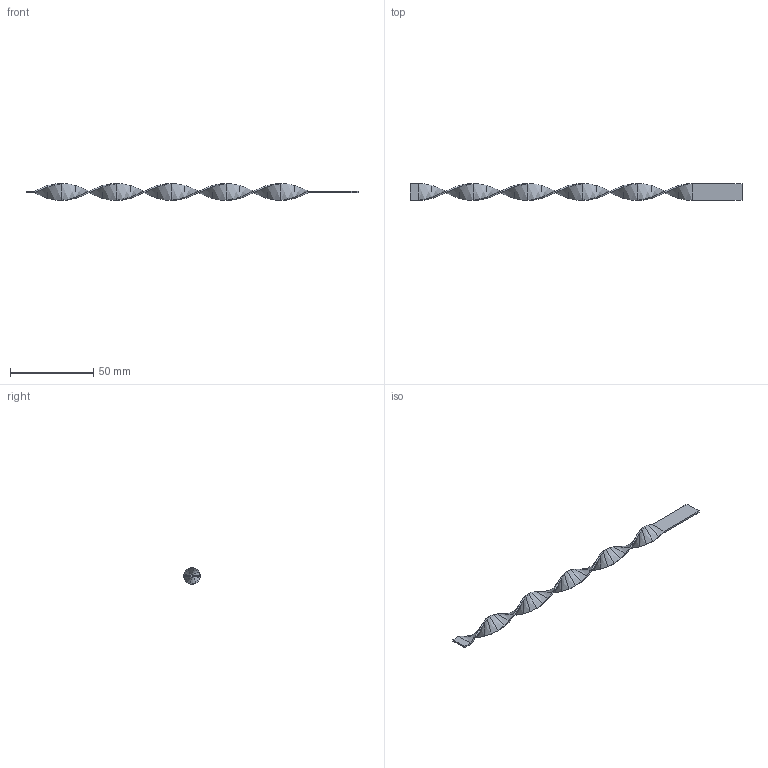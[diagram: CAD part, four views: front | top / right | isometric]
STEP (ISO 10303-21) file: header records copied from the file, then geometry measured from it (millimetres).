
FILE_DESCRIPTION( ( 'STEP AP214' ), '1' );
FILE_NAME( 'p:/temp/worker_252/temp/exporttempdir_4692_775_ZBdoV/format_0/RLAS-10SMx200.stp', '2021-11-01T10:46:56', ( 'License CC BY-ND 4.0' ), ( 'CADENAS' ), ' ', 'PARTsolutions', ' ' );
FILE_SCHEMA( ( 'AUTOMOTIVE_DESIGN { 1 0 10303 214 1 1 1 1 }' ) );
Length unit declared in the file: millimetre
Products named in the file (1): _RLAS-10SMx200
Bounding box: 200 x 10.6 x 10 mm (x, y, z)
Volume: 1959 mm3; surface area: 4493.4 mm2
Topology: 1 solids, 1 shells, 178 faces, 364 edges, 188 vertices
Faces by surface type: bspline 160, plane 18
Entity records: 6432 total; most frequent: CARTESIAN_POINT 2495, ORIENTED_EDGE 728, EDGE_CURVE 364, B_SPLINE_CURVE_WITH_KNOTS 324, VERTEX_POINT 188, STYLED_ITEM 178, PRESENTATION_STYLE_ASSIGNMENT 178, ADVANCED_FACE 178
